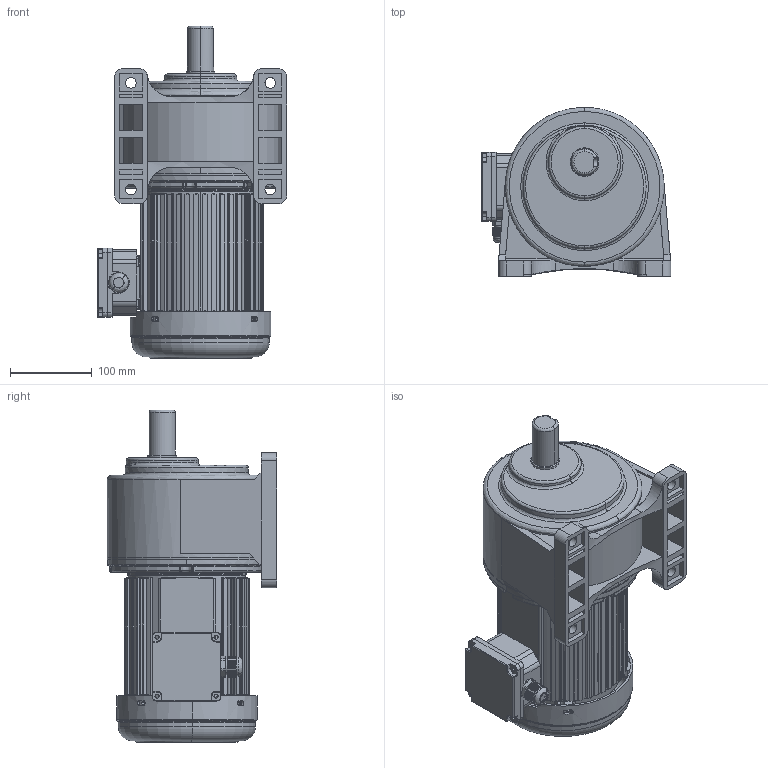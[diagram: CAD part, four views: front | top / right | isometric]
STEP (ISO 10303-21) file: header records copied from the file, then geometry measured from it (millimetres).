
FILE_DESCRIPTION (( 'STEP AP203' ), '1' );
FILE_NAME ('750W配4#卧式.STEP', '2019-06-14T08:21:53', ( '微软中国' ), ( '微软用户' ), 'SwSTEP 2.0', 'SolidWorks 2012', '' );
FILE_SCHEMA (( 'CONFIG_CONTROL_DESIGN' ));
Length unit declared in the file: millimetre
Products named in the file (10): 750W饜4#拏宒; 4#拏宒眊极; 4xg2X; 750W瑞欶; 釱菜; 750W 綴傷裔2_2; 坶踡ん 蚾饜; 蜊輛綴諉盄碟裔; 呿蹋諉盄碟; 儂褲 750W
Assembly tree (9 placements, depth 2):
  750W饜4#拏宒
    儂褲 750W
    呿蹋諉盄碟
    蜊輛綴諉盄碟裔
    坶踡ん 蚾饜
    750W 綴傷裔2_2
    釱菜
    750W瑞欶
    4xg2X
    4#拏宒眊极
Bounding box: 231 x 206.5 x 405.13 mm (x, y, z)
Volume: 4762930.3 mm3; surface area: 782861.8 mm2
Topology: 8 solids, 10 shells, 3345 faces, 8610 edges, 5391 vertices
Faces by surface type: cylinder 1328, plane 879, bspline 616, torus 292, cone 157, sphere 73
Entity records: 150203 total; most frequent: CARTESIAN_POINT 72549, ORIENTED_EDGE 17128, DIRECTION 14463, EDGE_CURVE 8566, AXIS2_PLACEMENT_3D 5669, VERTEX_POINT 5391, EDGE_LOOP 3877, ADVANCED_FACE 3345
